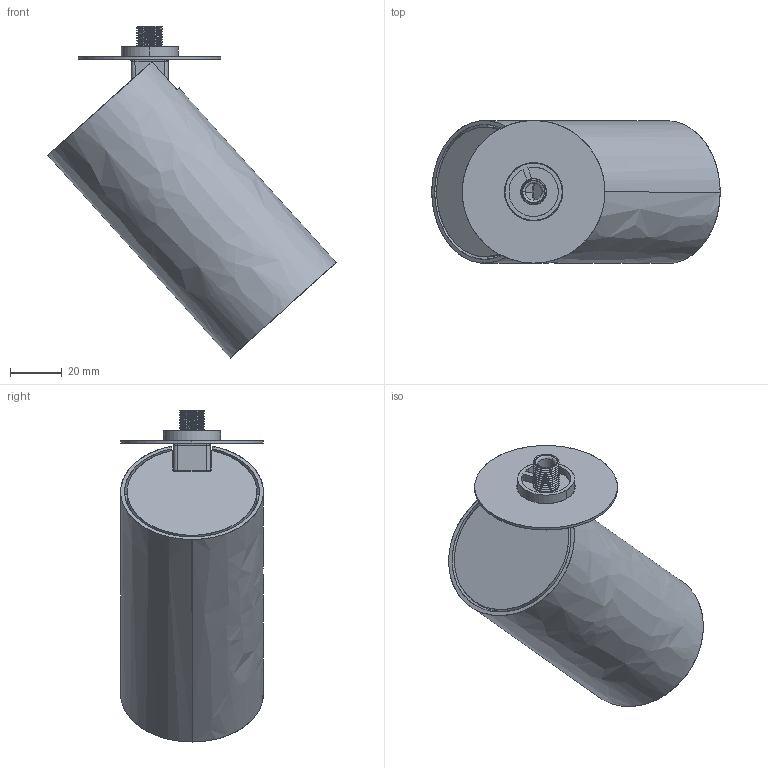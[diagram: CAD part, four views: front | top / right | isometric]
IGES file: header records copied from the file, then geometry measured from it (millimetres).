
Start section: SolidWorks IGES file using analytic representation for surfaces
Global section: file name: Z:\Modele 3D_WWW\_KOLEKCJE_WWW\MONO\MONO-SURFACE\MONO-SURFACE-I-7827-7833\MONO-SURFACE-I-7827-7833.IGS; native system: SolidWorks 2021; preprocessor: SolidWorks 2021; author: gabriela.tworek; date: 210730.110839; units: millimetre
Bounding box: 111.13 x 55 x 127.94 mm (x, y, z)
Surface area: 55512.7 mm2 (no closed solid volume)
Topology: 0 solids, 0 shells, 196 faces, 3483 edges, 3483 vertices
Faces by surface type: revolution 111, bspline 85
